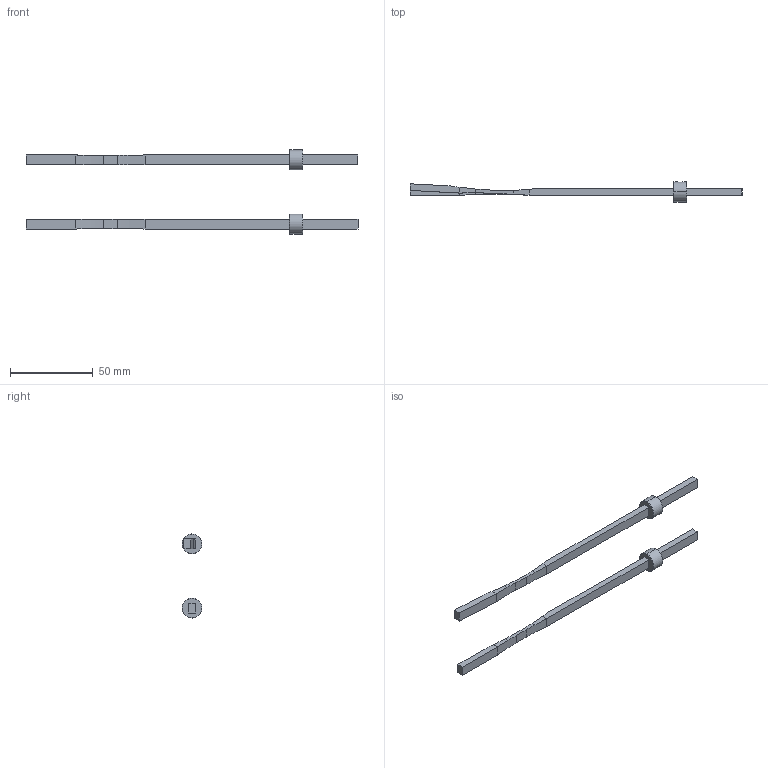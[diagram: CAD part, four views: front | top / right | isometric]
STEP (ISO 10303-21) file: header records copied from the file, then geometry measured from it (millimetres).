
FILE_DESCRIPTION (( 'STEP AP214' ), '1' );
FILE_NAME ('PF064200.STEP', '2013-07-26T14:10:55', ( '' ), ( '' ), 'SwSTEP 2.0', 'SolidWorks 2011', '' );
FILE_SCHEMA (( 'AUTOMOTIVE_DESIGN' ));
Length unit declared in the file: millimetre
Products named in the file (6): 9FP040612-20130117; 8PF0642WB-00-20130117_2; 9FP040612-20130117_2; 8PF0642WB-00-RTECTO-20130117; PF064200-WB-20130121-; PF064200
Assembly tree (5 placements, depth 3):
  PF064200
    PF064200-WB-20130121-
      8PF0642WB-00-RTECTO-20130117
      9FP040612-20130117
    8PF0642WB-00-20130117_2
    9FP040612-20130117_2
Bounding box: 200.01 x 12.02 x 50.63 mm (x, y, z)
Volume: 10102.3 mm3; surface area: 9016.7 mm2
Topology: 4 solids, 4 shells, 74 faces, 184 edges, 116 vertices
Faces by surface type: plane 40, cylinder 22, cone 12
Entity records: 2897 total; most frequent: CARTESIAN_POINT 523, DIRECTION 372, ORIENTED_EDGE 360, EDGE_CURVE 180, AXIS2_PLACEMENT_3D 129, VERTEX_POINT 116, VECTOR 114, LINE 114
